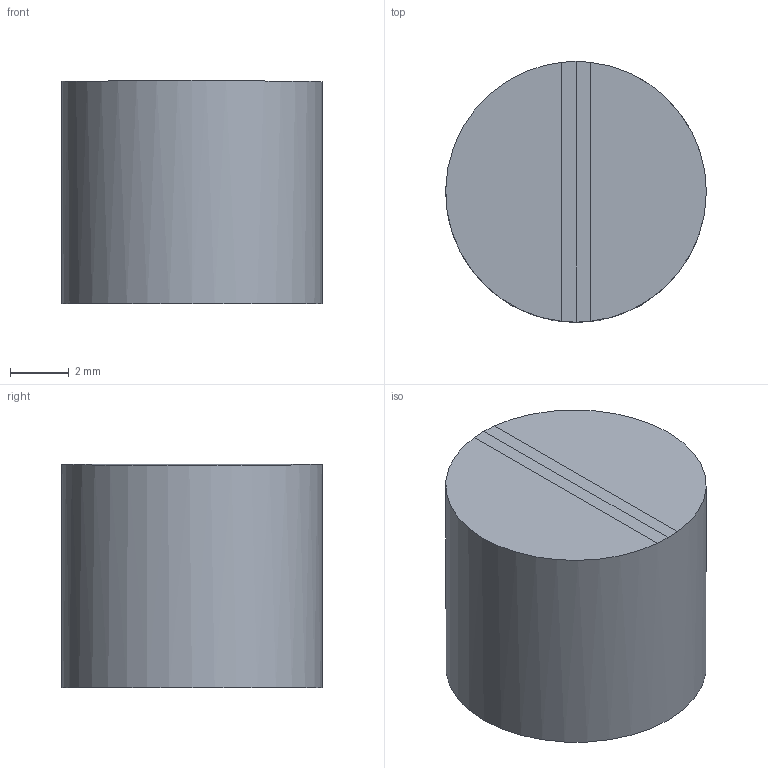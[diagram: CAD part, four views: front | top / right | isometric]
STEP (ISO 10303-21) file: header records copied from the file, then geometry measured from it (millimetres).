
FILE_DESCRIPTION(/* description */ ('Alibre Inc.'),/* implementation_level */ '2;1');
FILE_NAME(/* name */ 'export0',/* time_stamp */ '2011-07-18T11:41:37-04:00',/* author */ (''),/* organization */ (''),/* preprocessor_version */ 'ST-DEVELOPER v12',/* originating_system */ 'Alibre',/* authorisation */ '');
FILE_SCHEMA (('AUTOMOTIVE_DESIGN'));
Length unit declared in the file: centimetre
Bounding box: 8.89 x 8.89 x 7.63 mm (x, y, z)
Volume: 472.2 mm3; surface area: 336.3 mm2
Topology: 1 solids, 1 shells, 6 faces, 12 edges, 8 vertices
Faces by surface type: plane 3, bspline 2, cylinder 1
Full cylindrical faces by diameter (mm): 8.89 x1
Entity records: 181 total; most frequent: CARTESIAN_POINT 61, ORIENTED_EDGE 20, DIRECTION 14, EDGE_CURVE 10, VERTEX_POINT 7, EDGE_LOOP 7, FACE_BOUND 7, AXIS2_PLACEMENT_3D 7
